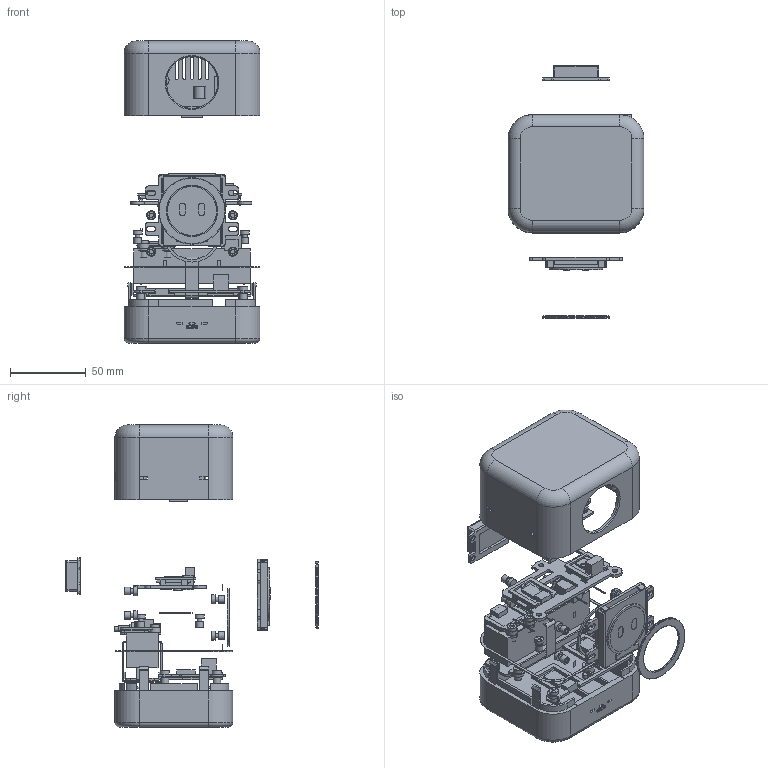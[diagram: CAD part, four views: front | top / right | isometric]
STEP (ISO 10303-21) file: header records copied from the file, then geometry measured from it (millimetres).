
FILE_DESCRIPTION(('Open CASCADE Model'),'2;1');
FILE_NAME('Open CASCADE Shape Model','2026-10-01T12:35:24',('Author'),( 'Open CASCADE'),'Open CASCADE STEP processor 7.8','Open CASCADE 7.8' ,'Unknown');
FILE_SCHEMA(('AUTOMOTIVE_DESIGN { 1 0 10303 214 1 1 1 1 }'));
Length unit declared in the file: millimetre
Products named in the file (93): AURA_R1_EXPLODED_REVIEW; P01_Upper_shell; P02_Snap_base; H00_Seam_anti_rattle_foam; P03_Face_bezel; H01_Bezel_adhesive; H04_LCD_edge_pad_-18_26.5; H04_LCD_edge_pad_-18_66.5; H04_LCD_edge_pad_18_26.5; H04_LCD_edge_pad_18_66.5; P04_Adjustable_display_carrier; H05_LCD_perimeter_gasket; P05_Electronics_deck; P06_C3_snap_cap; H07_P06_C3_snap_cap_pad_-1; H07_P06_C3_snap_cap_pad_1; P07_Amplifier_snap_cap; H07_P07_Amplifier_snap_cap_pad_-1; H07_P07_Amplifier_snap_cap_pad_1; P08_Power_board_retainer; H08_Power_pad_-20_-1; H08_Power_pad_-20_1; H08_Power_pad_19_-1; H08_Power_pad_19_1; P09_Battery_cradle; H09_Battery_retaining_strap; P10_Touch_retaining_frame; P11_Speaker_retainer; H02_Speaker_gasket; P12_USB_inlet_carrier; P13_USB_capture_cap; H06_USB_edge_pad_-34.5; H06_USB_edge_pad_-13.5; E01_GC9A01_breakout_provisional; E02_LCD_panel_reference; V01_Display_active_area; V02_Eye_pixels; V03_Eye_pixels; E03_ESP32C3_SuperMini_A33; E04_MAX98357_MD0860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
Assembly tree (92 placements, depth 2):
  AURA_R1_EXPLODED_REVIEW
    P01_Upper_shell
    P02_Snap_base
    H00_Seam_anti_rattle_foam
    P03_Face_bezel
    H01_Bezel_adhesive
    H04_LCD_edge_pad_-18_26.5
    H04_LCD_edge_pad_-18_66.5
    H04_LCD_edge_pad_18_26.5
    H04_LCD_edge_pad_18_66.5
    P04_Adjustable_display_carrier
    H05_LCD_perimeter_gasket
    P05_Electronics_deck
    P06_C3_snap_cap
    H07_P06_C3_snap_cap_pad_-1
    H07_P06_C3_snap_cap_pad_1
    P07_Amplifier_snap_cap
    H07_P07_Amplifier_snap_cap_pad_-1
    H07_P07_Amplifier_snap_cap_pad_1
    P08_Power_board_retainer
    H08_Power_pad_-20_-1
    H08_Power_pad_-20_1
    H08_Power_pad_19_-1
    H08_Power_pad_19_1
    P09_Battery_cradle
    H09_Battery_retaining_strap
    P10_Touch_retaining_frame
    P11_Speaker_retainer
    H02_Speaker_gasket
    P12_USB_inlet_carrier
    P13_USB_capture_cap
    H06_USB_edge_pad_-34.5
    H06_USB_edge_pad_-13.5
    E01_GC9A01_breakout_provisional
    E02_LCD_panel_reference
    V01_Display_active_area
    V02_Eye_pixels
    V03_Eye_pixels
    E03_ESP32C3_SuperMini_A33
    E04_MAX98357_MD0860
    E05_TTP223_MD0206_provisional
    E06_3020_speaker_PAL36
    E07_TP4056_MD0744
    E08_MT3608_ML2060
    E09_18650_holder_BA0039_provisional
    E10_18650_cell_BA0199_provisional
    H03_Cell_contact_L
    H03_Cell_contact_R
    E11_USBC_MD0840_provisional
    E13_USBC_socket_provisional
    E12_MTS202_BU0014_provisional
    H95_Toggle_washer_provisional
    H96_Toggle_nut_provisional
    H10_Base_insert_1
    H20_Base_screw_1
    H10_Base_insert_2
    H20_Base_screw_2
    H10_Base_insert_3
    H20_Base_screw_3
    H10_Base_insert_4
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Bounding box: 90 x 167.2 x 200 mm (x, y, z)
Volume: 161329.9 mm3; surface area: 152044.6 mm2
Topology: 92 solids, 92 shells, 1986 faces, 5022 edges, 3327 vertices
Faces by surface type: plane 1416, cylinder 405, extrusion 148, torus 16, cone 1
Full cylindrical faces by diameter (mm): 2.96 x18, 3 x8, 3.1 x18, 3.2 x1, 3.4 x16, 4.4 x18, 5 x18, 6 x19, 6.2 x1, 6.4 x1, 6.6 x1, 7 x2, 7.6 x3, 8 x10, 9 x6, 9.2 x1, 9.4 x4, 18.6 x1, 26 x1, 32.4 x1, 33.4 x1, 34.2 x1, 34.4 x1, 35.2 x1, 37.8 x1, 43.6 x1, 44 x1
Entity records: 129245 total; most frequent: CARTESIAN_POINT 28335, DIRECTION 17210, VECTOR 10885, LINE 10737, ORIENTED_EDGE 10044, PCURVE 10044, DEFINITIONAL_REPRESENTATION 10044, EDGE_CURVE 5022
